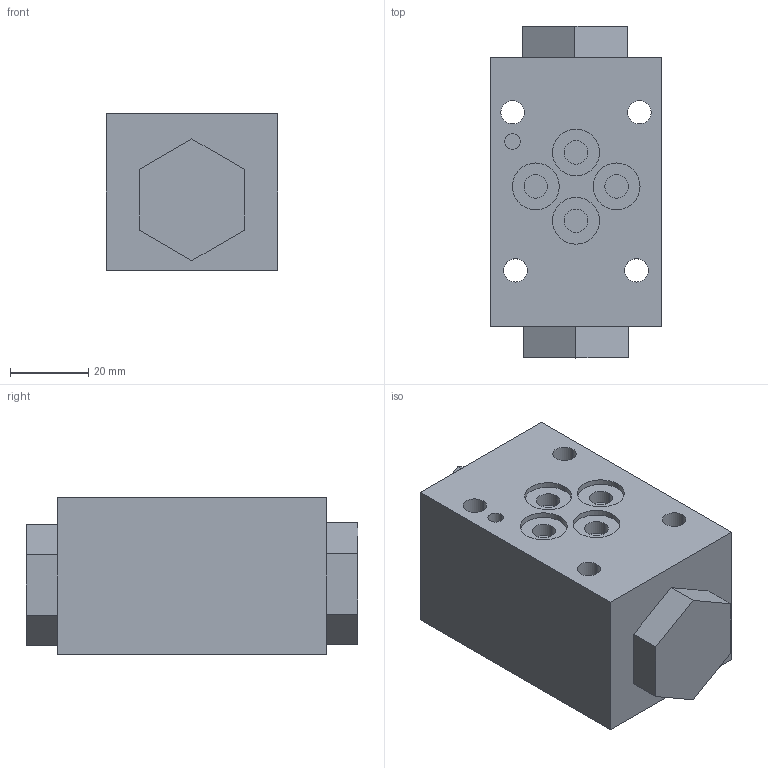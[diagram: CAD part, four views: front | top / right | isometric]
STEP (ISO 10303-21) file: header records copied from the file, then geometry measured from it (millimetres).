
FILE_DESCRIPTION (( 'STEP AP203' ), '1' );
FILE_NAME ('5DAY-02叠加式液控单向阀.STEP', '2020-11-11T05:59:20', ( 'chen' ), ( '' ), 'SwSTEP 2.0', 'SolidWorks 2018', '' );
FILE_SCHEMA (( 'CONFIG_CONTROL_DESIGN' ));
Length unit declared in the file: millimetre
Products named in the file (1): 5DAY-02叠加式液控单向阀
Bounding box: 44 x 85 x 40 mm (x, y, z)
Volume: 125308.4 mm3; surface area: 20360.8 mm2
Topology: 1 solids, 1 shells, 70 faces, 156 edges, 104 vertices
Faces by surface type: cylinder 36, plane 34
Entity records: 2065 total; most frequent: DIRECTION 370, CARTESIAN_POINT 331, ORIENTED_EDGE 312, EDGE_CURVE 156, AXIS2_PLACEMENT_3D 143, VERTEX_POINT 104, EDGE_LOOP 94, LINE 84
